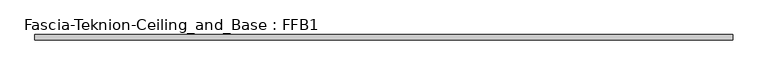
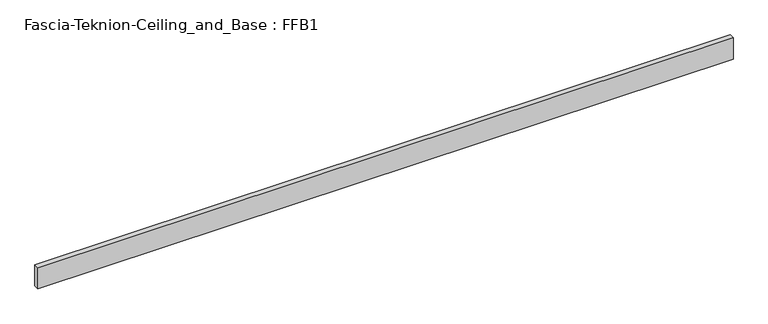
"""IFC4 building model written with IfcOpenShell, lengths in millimetres: proxy geometry, Fascia-Teknion-Ceiling_and_Base : FFB1."""

from ifc_helpers import new_model, si_unit, origin, origin_with_axes, place, context, project, spatial, polyline, outline, extrude, source, transform, mapped, element, save


def fascia_teknion_ceiling_and_base_ffb1_6d2ad91a(model_context):
    return source(origin(), model_context, "Body", "SweptSolid", [
        extrude(outline(polyline([(1252.8407125, 0.0), (1252.8407125, -19.05), (-1252.8407125, -19.05), (-1252.8407125, 0.0), (1252.8407125, 0.0)])), origin_with_axes(), (0.0, 0.0, 1.0), 81.28),
    ])


if __name__ == "__main__":
    model = new_model("IFC4")
    model_context = context("Model", 3, world=origin())
    ifc_project = project(units=[si_unit("LENGTHUNIT", "METRE", prefix="MILLI")], contexts=[model_context])
    site = spatial("IfcSite", under=ifc_project)
    building = spatial("IfcBuilding", under=site)
    placement = place(None, origin())
    fascia_teknion_ceiling_and_base_ffb1_shape = fascia_teknion_ceiling_and_base_ffb1_6d2ad91a(model_context)
    element("IfcBuildingElementProxy", 1, Name="Fascia-Teknion-Ceiling_and_Base : FFB1", ObjectType="Fascia-Teknion-Ceiling_and_Base : FFB1", at=placement, inside=building, context=model_context, shape_type="MappedRepresentation", body=[
        mapped(fascia_teknion_ceiling_and_base_ffb1_shape, transform((0.0, 0.0, 0.0), x_axis=(1.0, 0.0, 0.0), y_axis=(0.0, 1.0, 0.0), z_axis=(0.0, 0.0, 1.0))),
    ])
    save(model, "model.ifc")
